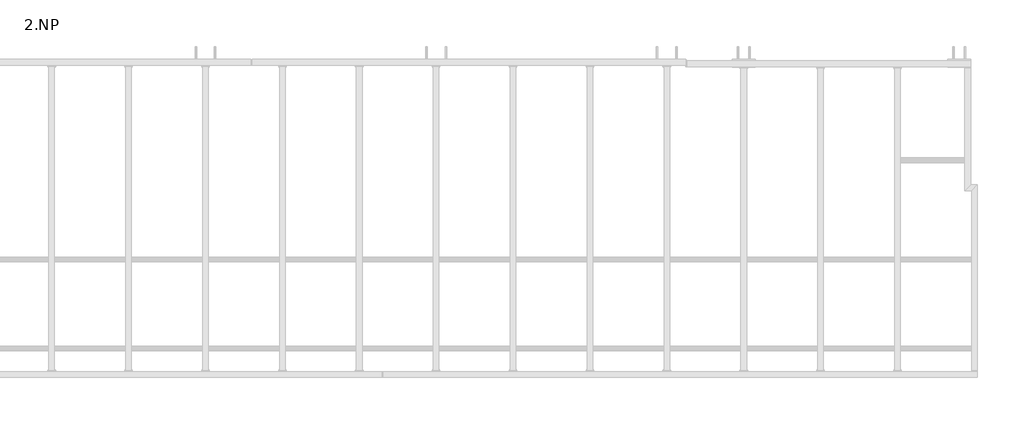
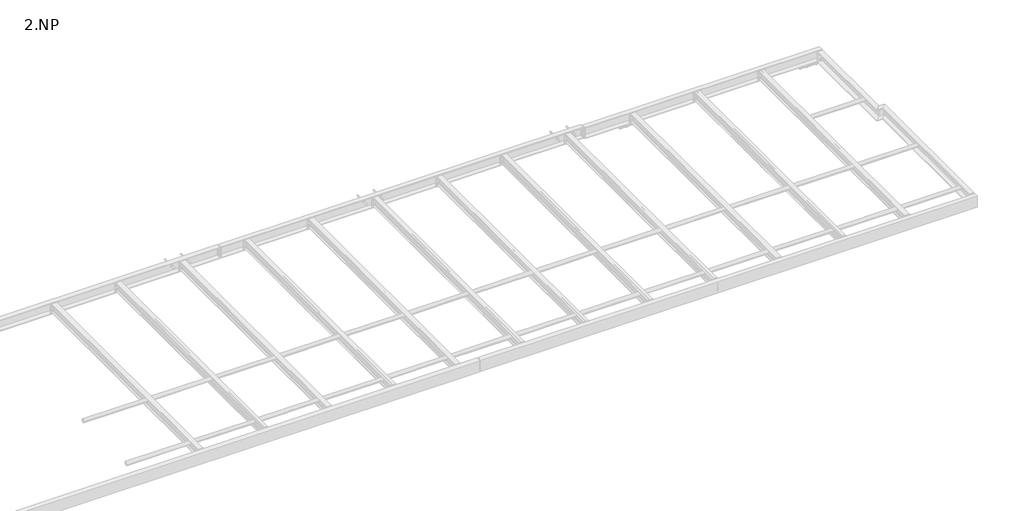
# One storey, part 17 of 18: 28 assemblies.
"""IFC4 building model written with IfcOpenShell, lengths in millimetres."""

from ifc_helpers import new_model, si_unit, point, frame, frame_2d, origin, place, context, project, spatial, polyline, circle_curve, trimmed, segment, composite_curve, outline, extrude, element, save

model = new_model("IFC4")

# Units and contexts
model_context = context("Model", 3, world=origin())
ifc_project = project(units=[si_unit("LENGTHUNIT", "METRE", prefix="MILLI")], contexts=[model_context])

# Site, building, storey
site = spatial("IfcSite", under=ifc_project)
building = spatial("IfcBuilding", under=site)
storey = spatial("IfcBuildingStorey", under=building, Name="2.NP", Elevation=3000.0)

# Assemblies
placement = place(None, origin())
element("IfcElementAssembly", 1, at=placement, inside=storey, context=model_context, shape_type="SweptSolid", body=[
    extrude(outline(composite_curve([segment(trimmed(circle_curve(frame_2d((1260.0, 3230.0)), 30.15), [point((1290.15, 3230.0))], [point((1229.85, 3230.0))], False, "CARTESIAN"), True, "CONTINUOUS"), segment(trimmed(circle_curve(frame_2d((1260.0, 3230.0)), 30.15), [point((1229.85, 3230.0))], [point((1290.15, 3230.0))], False, "CARTESIAN"), True, "CONTINUOUS")], self_intersect=False), holes=[composite_curve([segment(trimmed(circle_curve(frame_2d((1260.0, 3230.0)), 25.15), [point((1285.15, 3230.0))], [point((1234.85, 3230.0))], True, "CARTESIAN"), True, "CONTINUOUS"), segment(trimmed(circle_curve(frame_2d((1260.0, 3230.0)), 25.15), [point((1234.85, 3230.0))], [point((1285.15, 3230.0))], True, "CARTESIAN"), True, "CONTINUOUS")], self_intersect=False)]), frame((6052.35, 0.0, 0.0), z_axis=(1.0, 0.0, 0.0), x_axis=(0.0, 1.0, 0.0)), (0.0, 0.0, 1.0), 995.3),
])
element("IfcElementAssembly", 2, at=placement, inside=storey, context=model_context, shape_type="SweptSolid", body=[
    extrude(outline(composite_curve([segment(trimmed(circle_curve(frame_2d((1260.0, 3230.0)), 30.15), [point((1290.15, 3230.0))], [point((1229.85, 3230.0))], False, "CARTESIAN"), True, "CONTINUOUS"), segment(trimmed(circle_curve(frame_2d((1260.0, 3230.0)), 30.15), [point((1229.85, 3230.0))], [point((1290.15, 3230.0))], False, "CARTESIAN"), True, "CONTINUOUS")], self_intersect=False), holes=[composite_curve([segment(trimmed(circle_curve(frame_2d((1260.0, 3230.0)), 25.15), [point((1285.15, 3230.0))], [point((1234.85, 3230.0))], True, "CARTESIAN"), True, "CONTINUOUS"), segment(trimmed(circle_curve(frame_2d((1260.0, 3230.0)), 25.15), [point((1234.85, 3230.0))], [point((1285.15, 3230.0))], True, "CARTESIAN"), True, "CONTINUOUS")], self_intersect=False)]), frame((7052.35, 0.0, 0.0), z_axis=(1.0, 0.0, 0.0), x_axis=(0.0, 1.0, 0.0)), (0.0, 0.0, 1.0), 995.3),
])
element("IfcElementAssembly", 3, at=placement, inside=storey, context=model_context, shape_type="SweptSolid", body=[
    extrude(outline(composite_curve([segment(trimmed(circle_curve(frame_2d((1260.0, 3230.0)), 30.15), [point((1290.15, 3230.0))], [point((1229.85, 3230.0))], False, "CARTESIAN"), True, "CONTINUOUS"), segment(trimmed(circle_curve(frame_2d((1260.0, 3230.0)), 30.15), [point((1229.85, 3230.0))], [point((1290.15, 3230.0))], False, "CARTESIAN"), True, "CONTINUOUS")], self_intersect=False), holes=[composite_curve([segment(trimmed(circle_curve(frame_2d((1260.0, 3230.0)), 25.15), [point((1285.15, 3230.0))], [point((1234.85, 3230.0))], True, "CARTESIAN"), True, "CONTINUOUS"), segment(trimmed(circle_curve(frame_2d((1260.0, 3230.0)), 25.15), [point((1234.85, 3230.0))], [point((1285.15, 3230.0))], True, "CARTESIAN"), True, "CONTINUOUS")], self_intersect=False)]), frame((8052.35, 0.0, 0.0), z_axis=(1.0, 0.0, 0.0), x_axis=(0.0, 1.0, 0.0)), (0.0, 0.0, 1.0), 995.3),
])
element("IfcElementAssembly", 4, at=placement, inside=storey, context=model_context, shape_type="SweptSolid", body=[
    extrude(outline(composite_curve([segment(trimmed(circle_curve(frame_2d((1260.0, 3230.0)), 30.15), [point((1290.15, 3230.0))], [point((1229.85, 3230.0))], False, "CARTESIAN"), True, "CONTINUOUS"), segment(trimmed(circle_curve(frame_2d((1260.0, 3230.0)), 30.15), [point((1229.85, 3230.0))], [point((1290.15, 3230.0))], False, "CARTESIAN"), True, "CONTINUOUS")], self_intersect=False), holes=[composite_curve([segment(trimmed(circle_curve(frame_2d((1260.0, 3230.0)), 25.15), [point((1285.15, 3230.0))], [point((1234.85, 3230.0))], True, "CARTESIAN"), True, "CONTINUOUS"), segment(trimmed(circle_curve(frame_2d((1260.0, 3230.0)), 25.15), [point((1234.85, 3230.0))], [point((1285.15, 3230.0))], True, "CARTESIAN"), True, "CONTINUOUS")], self_intersect=False)]), frame((9052.35, 0.0, 0.0), z_axis=(1.0, 0.0, 0.0), x_axis=(0.0, 1.0, 0.0)), (0.0, 0.0, 1.0), 995.3),
])
element("IfcElementAssembly", 5, at=placement, inside=storey, context=model_context, shape_type="SweptSolid", body=[
    extrude(outline(composite_curve([segment(trimmed(circle_curve(frame_2d((1260.0, 3230.0)), 30.15), [point((1290.15, 3230.0))], [point((1229.85, 3230.0))], False, "CARTESIAN"), True, "CONTINUOUS"), segment(trimmed(circle_curve(frame_2d((1260.0, 3230.0)), 30.15), [point((1229.85, 3230.0))], [point((1290.15, 3230.0))], False, "CARTESIAN"), True, "CONTINUOUS")], self_intersect=False), holes=[composite_curve([segment(trimmed(circle_curve(frame_2d((1260.0, 3230.0)), 25.15), [point((1285.15, 3230.0))], [point((1234.85, 3230.0))], True, "CARTESIAN"), True, "CONTINUOUS"), segment(trimmed(circle_curve(frame_2d((1260.0, 3230.0)), 25.15), [point((1234.85, 3230.0))], [point((1285.15, 3230.0))], True, "CARTESIAN"), True, "CONTINUOUS")], self_intersect=False)]), frame((10052.35, 0.0, 0.0), z_axis=(1.0, 0.0, 0.0), x_axis=(0.0, 1.0, 0.0)), (0.0, 0.0, 1.0), 995.3),
])
element("IfcElementAssembly", 6, at=placement, inside=storey, context=model_context, shape_type="SweptSolid", body=[
    extrude(outline(composite_curve([segment(trimmed(circle_curve(frame_2d((1260.0, 3230.0)), 30.15), [point((1290.15, 3230.0))], [point((1229.85, 3230.0))], False, "CARTESIAN"), True, "CONTINUOUS"), segment(trimmed(circle_curve(frame_2d((1260.0, 3230.0)), 30.15), [point((1229.85, 3230.0))], [point((1290.15, 3230.0))], False, "CARTESIAN"), True, "CONTINUOUS")], self_intersect=False), holes=[composite_curve([segment(trimmed(circle_curve(frame_2d((1260.0, 3230.0)), 25.15), [point((1285.15, 3230.0))], [point((1234.85, 3230.0))], True, "CARTESIAN"), True, "CONTINUOUS"), segment(trimmed(circle_curve(frame_2d((1260.0, 3230.0)), 25.15), [point((1234.85, 3230.0))], [point((1285.15, 3230.0))], True, "CARTESIAN"), True, "CONTINUOUS")], self_intersect=False)]), frame((11052.35, 0.0, 0.0), z_axis=(1.0, 0.0, 0.0), x_axis=(0.0, 1.0, 0.0)), (0.0, 0.0, 1.0), 995.3),
])
element("IfcElementAssembly", 7, at=placement, inside=storey, context=model_context, shape_type="SweptSolid", body=[
    extrude(outline(composite_curve([segment(trimmed(circle_curve(frame_2d((1260.0, 3230.0)), 30.15), [point((1290.15, 3230.0))], [point((1229.85, 3230.0))], False, "CARTESIAN"), True, "CONTINUOUS"), segment(trimmed(circle_curve(frame_2d((1260.0, 3230.0)), 30.15), [point((1229.85, 3230.0))], [point((1290.15, 3230.0))], False, "CARTESIAN"), True, "CONTINUOUS")], self_intersect=False), holes=[composite_curve([segment(trimmed(circle_curve(frame_2d((1260.0, 3230.0)), 25.15), [point((1285.15, 3230.0))], [point((1234.85, 3230.0))], True, "CARTESIAN"), True, "CONTINUOUS"), segment(trimmed(circle_curve(frame_2d((1260.0, 3230.0)), 25.15), [point((1234.85, 3230.0))], [point((1285.15, 3230.0))], True, "CARTESIAN"), True, "CONTINUOUS")], self_intersect=False)]), frame((12052.35, 0.0, 0.0), z_axis=(1.0, 0.0, 0.0), x_axis=(0.0, 1.0, 0.0)), (0.0, 0.0, 1.0), 995.3),
])
element("IfcElementAssembly", 8, at=placement, inside=storey, context=model_context, shape_type="SweptSolid", body=[
    extrude(outline(composite_curve([segment(trimmed(circle_curve(frame_2d((1260.0, 3230.0)), 30.15), [point((1290.15, 3230.0))], [point((1229.85, 3230.0))], False, "CARTESIAN"), True, "CONTINUOUS"), segment(trimmed(circle_curve(frame_2d((1260.0, 3230.0)), 30.15), [point((1229.85, 3230.0))], [point((1290.15, 3230.0))], False, "CARTESIAN"), True, "CONTINUOUS")], self_intersect=False), holes=[composite_curve([segment(trimmed(circle_curve(frame_2d((1260.0, 3230.0)), 25.15), [point((1285.15, 3230.0))], [point((1234.85, 3230.0))], True, "CARTESIAN"), True, "CONTINUOUS"), segment(trimmed(circle_curve(frame_2d((1260.0, 3230.0)), 25.15), [point((1234.85, 3230.0))], [point((1285.15, 3230.0))], True, "CARTESIAN"), True, "CONTINUOUS")], self_intersect=False)]), frame((13052.35, 0.0, 0.0), z_axis=(1.0, 0.0, 0.0), x_axis=(0.0, 1.0, 0.0)), (0.0, 0.0, 1.0), 995.3),
])
element("IfcElementAssembly", 9, at=placement, inside=storey, context=model_context, shape_type="SweptSolid", body=[
    extrude(outline(composite_curve([segment(trimmed(circle_curve(frame_2d((1260.0, 3230.0)), 30.15), [point((1290.15, 3230.0))], [point((1229.85, 3230.0))], False, "CARTESIAN"), True, "CONTINUOUS"), segment(trimmed(circle_curve(frame_2d((1260.0, 3230.0)), 30.15), [point((1229.85, 3230.0))], [point((1290.15, 3230.0))], False, "CARTESIAN"), True, "CONTINUOUS")], self_intersect=False), holes=[composite_curve([segment(trimmed(circle_curve(frame_2d((1260.0, 3230.0)), 25.15), [point((1285.15, 3230.0))], [point((1234.85, 3230.0))], True, "CARTESIAN"), True, "CONTINUOUS"), segment(trimmed(circle_curve(frame_2d((1260.0, 3230.0)), 25.15), [point((1234.85, 3230.0))], [point((1285.15, 3230.0))], True, "CARTESIAN"), True, "CONTINUOUS")], self_intersect=False)]), frame((14052.4, 0.0, 0.0), z_axis=(1.0, 0.0, 0.0), x_axis=(0.0, 1.0, 0.0)), (0.0, 0.0, 1.0), 997.6),
])
element("IfcElementAssembly", 10, at=placement, inside=storey, context=model_context, shape_type="SweptSolid", body=[
    extrude(outline(composite_curve([segment(trimmed(circle_curve(frame_2d((100.0, 3230.0)), 30.15), [point((130.15, 3230.0))], [point((69.85, 3230.0))], False, "CARTESIAN"), True, "CONTINUOUS"), segment(trimmed(circle_curve(frame_2d((100.0, 3230.0)), 30.15), [point((69.85, 3230.0))], [point((130.15, 3230.0))], False, "CARTESIAN"), True, "CONTINUOUS")], self_intersect=False), holes=[composite_curve([segment(trimmed(circle_curve(frame_2d((100.0, 3230.0)), 25.15), [point((125.15, 3230.0))], [point((74.85, 3230.0))], True, "CARTESIAN"), True, "CONTINUOUS"), segment(trimmed(circle_curve(frame_2d((100.0, 3230.0)), 25.15), [point((74.85, 3230.0))], [point((125.15, 3230.0))], True, "CARTESIAN"), True, "CONTINUOUS")], self_intersect=False)]), frame((6052.35, 0.0, 0.0), z_axis=(1.0, 0.0, 0.0), x_axis=(0.0, 1.0, 0.0)), (0.0, 0.0, 1.0), 995.3),
])
element("IfcElementAssembly", 11, at=placement, inside=storey, context=model_context, shape_type="SweptSolid", body=[
    extrude(outline(composite_curve([segment(trimmed(circle_curve(frame_2d((100.0, 3230.0)), 30.15), [point((130.15, 3230.0))], [point((69.85, 3230.0))], False, "CARTESIAN"), True, "CONTINUOUS"), segment(trimmed(circle_curve(frame_2d((100.0, 3230.0)), 30.15), [point((69.85, 3230.0))], [point((130.15, 3230.0))], False, "CARTESIAN"), True, "CONTINUOUS")], self_intersect=False), holes=[composite_curve([segment(trimmed(circle_curve(frame_2d((100.0, 3230.0)), 25.15), [point((125.15, 3230.0))], [point((74.85, 3230.0))], True, "CARTESIAN"), True, "CONTINUOUS"), segment(trimmed(circle_curve(frame_2d((100.0, 3230.0)), 25.15), [point((74.85, 3230.0))], [point((125.15, 3230.0))], True, "CARTESIAN"), True, "CONTINUOUS")], self_intersect=False)]), frame((7052.35, 0.0, 0.0), z_axis=(1.0, 0.0, 0.0), x_axis=(0.0, 1.0, 0.0)), (0.0, 0.0, 1.0), 995.3),
])
element("IfcElementAssembly", 12, at=placement, inside=storey, context=model_context, shape_type="SweptSolid", body=[
    extrude(outline(composite_curve([segment(trimmed(circle_curve(frame_2d((100.0, 3230.0)), 30.15), [point((130.15, 3230.0))], [point((69.85, 3230.0))], False, "CARTESIAN"), True, "CONTINUOUS"), segment(trimmed(circle_curve(frame_2d((100.0, 3230.0)), 30.15), [point((69.85, 3230.0))], [point((130.15, 3230.0))], False, "CARTESIAN"), True, "CONTINUOUS")], self_intersect=False), holes=[composite_curve([segment(trimmed(circle_curve(frame_2d((100.0, 3230.0)), 25.15), [point((125.15, 3230.0))], [point((74.85, 3230.0))], True, "CARTESIAN"), True, "CONTINUOUS"), segment(trimmed(circle_curve(frame_2d((100.0, 3230.0)), 25.15), [point((74.85, 3230.0))], [point((125.15, 3230.0))], True, "CARTESIAN"), True, "CONTINUOUS")], self_intersect=False)]), frame((8052.35, 0.0, 0.0), z_axis=(1.0, 0.0, 0.0), x_axis=(0.0, 1.0, 0.0)), (0.0, 0.0, 1.0), 995.3),
])
element("IfcElementAssembly", 13, at=placement, inside=storey, context=model_context, shape_type="SweptSolid", body=[
    extrude(outline(composite_curve([segment(trimmed(circle_curve(frame_2d((100.0, 3230.0)), 30.15), [point((130.15, 3230.0))], [point((69.85, 3230.0))], False, "CARTESIAN"), True, "CONTINUOUS"), segment(trimmed(circle_curve(frame_2d((100.0, 3230.0)), 30.15), [point((69.85, 3230.0))], [point((130.15, 3230.0))], False, "CARTESIAN"), True, "CONTINUOUS")], self_intersect=False), holes=[composite_curve([segment(trimmed(circle_curve(frame_2d((100.0, 3230.0)), 25.15), [point((125.15, 3230.0))], [point((74.85, 3230.0))], True, "CARTESIAN"), True, "CONTINUOUS"), segment(trimmed(circle_curve(frame_2d((100.0, 3230.0)), 25.15), [point((74.85, 3230.0))], [point((125.15, 3230.0))], True, "CARTESIAN"), True, "CONTINUOUS")], self_intersect=False)]), frame((9052.35, 0.0, 0.0), z_axis=(1.0, 0.0, 0.0), x_axis=(0.0, 1.0, 0.0)), (0.0, 0.0, 1.0), 995.3),
])
element("IfcElementAssembly", 14, at=placement, inside=storey, context=model_context, shape_type="SweptSolid", body=[
    extrude(outline(composite_curve([segment(trimmed(circle_curve(frame_2d((100.0, 3230.0)), 30.15), [point((130.15, 3230.0))], [point((69.85, 3230.0))], False, "CARTESIAN"), True, "CONTINUOUS"), segment(trimmed(circle_curve(frame_2d((100.0, 3230.0)), 30.15), [point((69.85, 3230.0))], [point((130.15, 3230.0))], False, "CARTESIAN"), True, "CONTINUOUS")], self_intersect=False), holes=[composite_curve([segment(trimmed(circle_curve(frame_2d((100.0, 3230.0)), 25.15), [point((125.15, 3230.0))], [point((74.85, 3230.0))], True, "CARTESIAN"), True, "CONTINUOUS"), segment(trimmed(circle_curve(frame_2d((100.0, 3230.0)), 25.15), [point((74.85, 3230.0))], [point((125.15, 3230.0))], True, "CARTESIAN"), True, "CONTINUOUS")], self_intersect=False)]), frame((10052.35, 0.0, 0.0), z_axis=(1.0, 0.0, 0.0), x_axis=(0.0, 1.0, 0.0)), (0.0, 0.0, 1.0), 995.3),
])
element("IfcElementAssembly", 15, at=placement, inside=storey, context=model_context, shape_type="SweptSolid", body=[
    extrude(outline(composite_curve([segment(trimmed(circle_curve(frame_2d((100.0, 3230.0)), 30.15), [point((130.15, 3230.0))], [point((69.85, 3230.0))], False, "CARTESIAN"), True, "CONTINUOUS"), segment(trimmed(circle_curve(frame_2d((100.0, 3230.0)), 30.15), [point((69.85, 3230.0))], [point((130.15, 3230.0))], False, "CARTESIAN"), True, "CONTINUOUS")], self_intersect=False), holes=[composite_curve([segment(trimmed(circle_curve(frame_2d((100.0, 3230.0)), 25.15), [point((125.15, 3230.0))], [point((74.85, 3230.0))], True, "CARTESIAN"), True, "CONTINUOUS"), segment(trimmed(circle_curve(frame_2d((100.0, 3230.0)), 25.15), [point((74.85, 3230.0))], [point((125.15, 3230.0))], True, "CARTESIAN"), True, "CONTINUOUS")], self_intersect=False)]), frame((11052.35, 0.0, 0.0), z_axis=(1.0, 0.0, 0.0), x_axis=(0.0, 1.0, 0.0)), (0.0, 0.0, 1.0), 995.3),
])
element("IfcElementAssembly", 16, at=placement, inside=storey, context=model_context, shape_type="SweptSolid", body=[
    extrude(outline(composite_curve([segment(trimmed(circle_curve(frame_2d((100.0, 3230.0)), 30.15), [point((130.15, 3230.0))], [point((69.85, 3230.0))], False, "CARTESIAN"), True, "CONTINUOUS"), segment(trimmed(circle_curve(frame_2d((100.0, 3230.0)), 30.15), [point((69.85, 3230.0))], [point((130.15, 3230.0))], False, "CARTESIAN"), True, "CONTINUOUS")], self_intersect=False), holes=[composite_curve([segment(trimmed(circle_curve(frame_2d((100.0, 3230.0)), 25.15), [point((125.15, 3230.0))], [point((74.85, 3230.0))], True, "CARTESIAN"), True, "CONTINUOUS"), segment(trimmed(circle_curve(frame_2d((100.0, 3230.0)), 25.15), [point((74.85, 3230.0))], [point((125.15, 3230.0))], True, "CARTESIAN"), True, "CONTINUOUS")], self_intersect=False)]), frame((12052.35, 0.0, 0.0), z_axis=(1.0, 0.0, 0.0), x_axis=(0.0, 1.0, 0.0)), (0.0, 0.0, 1.0), 995.3),
])
element("IfcElementAssembly", 17, at=placement, inside=storey, context=model_context, shape_type="SweptSolid", body=[
    extrude(outline(composite_curve([segment(trimmed(circle_curve(frame_2d((100.0, 3230.0)), 30.15), [point((130.15, 3230.0))], [point((69.85, 3230.0))], False, "CARTESIAN"), True, "CONTINUOUS"), segment(trimmed(circle_curve(frame_2d((100.0, 3230.0)), 30.15), [point((69.85, 3230.0))], [point((130.15, 3230.0))], False, "CARTESIAN"), True, "CONTINUOUS")], self_intersect=False), holes=[composite_curve([segment(trimmed(circle_curve(frame_2d((100.0, 3230.0)), 25.15), [point((125.15, 3230.0))], [point((74.85, 3230.0))], True, "CARTESIAN"), True, "CONTINUOUS"), segment(trimmed(circle_curve(frame_2d((100.0, 3230.0)), 25.15), [point((74.85, 3230.0))], [point((125.15, 3230.0))], True, "CARTESIAN"), True, "CONTINUOUS")], self_intersect=False)]), frame((13052.35, 0.0, 0.0), z_axis=(1.0, 0.0, 0.0), x_axis=(0.0, 1.0, 0.0)), (0.0, 0.0, 1.0), 995.3),
])
element("IfcElementAssembly", 18, at=placement, inside=storey, context=model_context, shape_type="SweptSolid", body=[
    extrude(outline(composite_curve([segment(trimmed(circle_curve(frame_2d((100.0, 3230.0)), 30.15), [point((130.15, 3230.0))], [point((69.85, 3230.0))], False, "CARTESIAN"), True, "CONTINUOUS"), segment(trimmed(circle_curve(frame_2d((100.0, 3230.0)), 30.15), [point((69.85, 3230.0))], [point((130.15, 3230.0))], False, "CARTESIAN"), True, "CONTINUOUS")], self_intersect=False), holes=[composite_curve([segment(trimmed(circle_curve(frame_2d((100.0, 3230.0)), 25.15), [point((125.15, 3230.0))], [point((74.85, 3230.0))], True, "CARTESIAN"), True, "CONTINUOUS"), segment(trimmed(circle_curve(frame_2d((100.0, 3230.0)), 25.15), [point((74.85, 3230.0))], [point((125.15, 3230.0))], True, "CARTESIAN"), True, "CONTINUOUS")], self_intersect=False)]), frame((14052.35, 0.0, 0.0), z_axis=(1.0, 0.0, 0.0), x_axis=(0.0, 1.0, 0.0)), (0.0, 0.0, 1.0), 995.3),
])
element("IfcElementAssembly", 19, at=placement, inside=storey, context=model_context, shape_type="SweptSolid", body=[
    extrude(outline(composite_curve([segment(trimmed(circle_curve(frame_2d((100.0, 3230.0)), 30.15), [point((130.15, 3230.0))], [point((69.85, 3230.0))], False, "CARTESIAN"), True, "CONTINUOUS"), segment(trimmed(circle_curve(frame_2d((100.0, 3230.0)), 30.15), [point((69.85, 3230.0))], [point((130.15, 3230.0))], False, "CARTESIAN"), True, "CONTINUOUS")], self_intersect=False), holes=[composite_curve([segment(trimmed(circle_curve(frame_2d((100.0, 3230.0)), 25.15), [point((125.15, 3230.0))], [point((74.85, 3230.0))], True, "CARTESIAN"), True, "CONTINUOUS"), segment(trimmed(circle_curve(frame_2d((100.0, 3230.0)), 25.15), [point((74.85, 3230.0))], [point((125.15, 3230.0))], True, "CARTESIAN"), True, "CONTINUOUS")], self_intersect=False)]), frame((15052.4, 0.0, 0.0), z_axis=(1.0, 0.0, 0.0), x_axis=(0.0, 1.0, 0.0)), (0.0, 0.0, 1.0), 1032.1),
])
element("IfcElementAssembly", 20, at=placement, inside=storey, context=model_context, shape_type="SweptSolid", body=[
    extrude(outline(composite_curve([segment(polyline([(3160.0, 6013.5), (3160.0, 6086.5), (3166.9000001, 6086.5), (3166.9000001, 6059.3499999)]), True, "CONTINUOUS"), segment(trimmed(circle_curve(frame_2d((3173.9000001, 6059.3499999)), 7.0), [point((3166.9000001, 6059.3499999))], [point((3173.9000001, 6052.3499999))], True, "CARTESIAN"), True, "CONTINUOUS"), segment(polyline([(3173.9000001, 6052.3499999), (3286.0999999, 6052.3499999)]), True, "CONTINUOUS"), segment(trimmed(circle_curve(frame_2d((3286.0999999, 6059.3499999)), 7.0), [point((3286.0999999, 6052.3499999))], [point((3293.0999999, 6059.3499999))], True, "CARTESIAN"), True, "CONTINUOUS"), segment(polyline([(3293.0999999, 6059.3499999), (3293.0999999, 6086.5), (3300.0, 6086.5), (3300.0, 6013.5), (3293.0999999, 6013.5), (3293.0999999, 6040.6500001)]), True, "CONTINUOUS"), segment(trimmed(circle_curve(frame_2d((3286.0999999, 6040.6500001)), 7.0), [point((3293.0999999, 6040.6500001))], [point((3286.0999999, 6047.6500001))], True, "CARTESIAN"), True, "CONTINUOUS"), segment(polyline([(3286.0999999, 6047.6500001), (3173.9000001, 6047.6500001)]), True, "CONTINUOUS"), segment(trimmed(circle_curve(frame_2d((3173.9000001, 6040.6500001)), 7.0), [point((3173.9000001, 6047.6500001))], [point((3166.9000001, 6040.6500001))], True, "CARTESIAN"), True, "CONTINUOUS"), segment(polyline([(3166.9000001, 6040.6500001), (3166.9000001, 6013.5), (3160.0, 6013.5)]), True, "CONTINUOUS")], self_intersect=False)), frame((0.0, -180.0, 0.0), z_axis=(0.0, 1.0, 0.0), x_axis=(0.0, 0.0, 1.0)), (0.0, 0.0, 1.0), 3947.0),
    extrude(outline(polyline([(6000.0, 3775.0), (6100.0, 3775.0), (6100.0, 3767.0), (6000.0, 3767.0), (6000.0, 3775.0)])), frame((0.0, 0.0, 3175.0), z_axis=(0.0, 0.0, 1.0), x_axis=(1.0, 0.0, 0.0)), (0.0, 0.0, 1.0), 110.0),
    extrude(outline(polyline([(6000.0, -180.0), (6100.0, -180.0), (6100.0, -190.0), (6000.0, -190.0), (6000.0, -180.0)])), frame((0.0, 0.0, 3166.5), z_axis=(0.0, 0.0, 1.0), x_axis=(1.0, 0.0, 0.0)), (0.0, 0.0, 1.0), 127.0),
])
element("IfcElementAssembly", 21, at=placement, inside=storey, context=model_context, shape_type="SweptSolid", body=[
    extrude(outline(composite_curve([segment(polyline([(3160.0, 7013.5), (3160.0, 7086.5), (3166.9000001, 7086.5), (3166.9000001, 7059.3499999)]), True, "CONTINUOUS"), segment(trimmed(circle_curve(frame_2d((3173.9000001, 7059.3499999)), 7.0), [point((3166.9000001, 7059.3499999))], [point((3173.9000001, 7052.3499999))], True, "CARTESIAN"), True, "CONTINUOUS"), segment(polyline([(3173.9000001, 7052.3499999), (3286.0999999, 7052.3499999)]), True, "CONTINUOUS"), segment(trimmed(circle_curve(frame_2d((3286.0999999, 7059.3499999)), 7.0), [point((3286.0999999, 7052.3499999))], [point((3293.0999999, 7059.3499999))], True, "CARTESIAN"), True, "CONTINUOUS"), segment(polyline([(3293.0999999, 7059.3499999), (3293.0999999, 7086.5), (3300.0, 7086.5), (3300.0, 7013.5), (3293.0999999, 7013.5), (3293.0999999, 7040.6500001)]), True, "CONTINUOUS"), segment(trimmed(circle_curve(frame_2d((3286.0999999, 7040.6500001)), 7.0), [point((3293.0999999, 7040.6500001))], [point((3286.0999999, 7047.6500001))], True, "CARTESIAN"), True, "CONTINUOUS"), segment(polyline([(3286.0999999, 7047.6500001), (3173.9000001, 7047.6500001)]), True, "CONTINUOUS"), segment(trimmed(circle_curve(frame_2d((3173.9000001, 7040.6500001)), 7.0), [point((3173.9000001, 7047.6500001))], [point((3166.9000001, 7040.6500001))], True, "CARTESIAN"), True, "CONTINUOUS"), segment(polyline([(3166.9000001, 7040.6500001), (3166.9000001, 7013.5), (3160.0, 7013.5)]), True, "CONTINUOUS")], self_intersect=False)), frame((0.0, -180.0, 0.0), z_axis=(0.0, 1.0, 0.0), x_axis=(0.0, 0.0, 1.0)), (0.0, 0.0, 1.0), 3947.0),
    extrude(outline(polyline([(7000.0, 3775.0), (7100.0, 3775.0), (7100.0, 3767.0), (7000.0, 3767.0), (7000.0, 3775.0)])), frame((0.0, 0.0, 3175.0), z_axis=(0.0, 0.0, 1.0), x_axis=(1.0, 0.0, 0.0)), (0.0, 0.0, 1.0), 110.0),
    extrude(outline(polyline([(7000.0, -180.0), (7100.0, -180.0), (7100.0, -190.0), (7000.0, -190.0), (7000.0, -180.0)])), frame((0.0, 0.0, 3166.5), z_axis=(0.0, 0.0, 1.0), x_axis=(1.0, 0.0, 0.0)), (0.0, 0.0, 1.0), 127.0),
])
element("IfcElementAssembly", 22, at=placement, inside=storey, context=model_context, shape_type="SweptSolid", body=[
    extrude(outline(composite_curve([segment(polyline([(3160.0, 8013.5), (3160.0, 8086.5), (3166.9000001, 8086.5), (3166.9000001, 8059.3499999)]), True, "CONTINUOUS"), segment(trimmed(circle_curve(frame_2d((3173.9000001, 8059.3499999)), 7.0), [point((3166.9000001, 8059.3499999))], [point((3173.9000001, 8052.3499999))], True, "CARTESIAN"), True, "CONTINUOUS"), segment(polyline([(3173.9000001, 8052.3499999), (3286.0999999, 8052.3499999)]), True, "CONTINUOUS"), segment(trimmed(circle_curve(frame_2d((3286.0999999, 8059.3499999)), 7.0), [point((3286.0999999, 8052.3499999))], [point((3293.0999999, 8059.3499999))], True, "CARTESIAN"), True, "CONTINUOUS"), segment(polyline([(3293.0999999, 8059.3499999), (3293.0999999, 8086.5), (3300.0, 8086.5), (3300.0, 8013.5), (3293.0999999, 8013.5), (3293.0999999, 8040.6500001)]), True, "CONTINUOUS"), segment(trimmed(circle_curve(frame_2d((3286.0999999, 8040.6500001)), 7.0), [point((3293.0999999, 8040.6500001))], [point((3286.0999999, 8047.6500001))], True, "CARTESIAN"), True, "CONTINUOUS"), segment(polyline([(3286.0999999, 8047.6500001), (3173.9000001, 8047.6500001)]), True, "CONTINUOUS"), segment(trimmed(circle_curve(frame_2d((3173.9000001, 8040.6500001)), 7.0), [point((3173.9000001, 8047.6500001))], [point((3166.9000001, 8040.6500001))], True, "CARTESIAN"), True, "CONTINUOUS"), segment(polyline([(3166.9000001, 8040.6500001), (3166.9000001, 8013.5), (3160.0, 8013.5)]), True, "CONTINUOUS")], self_intersect=False)), frame((0.0, -180.0, 0.0), z_axis=(0.0, 1.0, 0.0), x_axis=(0.0, 0.0, 1.0)), (0.0, 0.0, 1.0), 3947.0),
    extrude(outline(polyline([(8000.0, 3775.0), (8100.0, 3775.0), (8100.0, 3767.0), (8000.0, 3767.0), (8000.0, 3775.0)])), frame((0.0, 0.0, 3175.0), z_axis=(0.0, 0.0, 1.0), x_axis=(1.0, 0.0, 0.0)), (0.0, 0.0, 1.0), 110.0),
    extrude(outline(polyline([(8000.0, -180.0), (8100.0, -180.0), (8100.0, -190.0), (8000.0, -190.0), (8000.0, -180.0)])), frame((0.0, 0.0, 3166.5), z_axis=(0.0, 0.0, 1.0), x_axis=(1.0, 0.0, 0.0)), (0.0, 0.0, 1.0), 127.0),
])
element("IfcElementAssembly", 23, at=placement, inside=storey, context=model_context, shape_type="SweptSolid", body=[
    extrude(outline(composite_curve([segment(polyline([(3160.0, 9013.5), (3160.0, 9086.5), (3166.9000001, 9086.5), (3166.9000001, 9059.3499999)]), True, "CONTINUOUS"), segment(trimmed(circle_curve(frame_2d((3173.9000001, 9059.3499999)), 7.0), [point((3166.9000001, 9059.3499999))], [point((3173.9000001, 9052.3499999))], True, "CARTESIAN"), True, "CONTINUOUS"), segment(polyline([(3173.9000001, 9052.3499999), (3286.0999999, 9052.3499999)]), True, "CONTINUOUS"), segment(trimmed(circle_curve(frame_2d((3286.0999999, 9059.3499999)), 7.0), [point((3286.0999999, 9052.3499999))], [point((3293.0999999, 9059.3499999))], True, "CARTESIAN"), True, "CONTINUOUS"), segment(polyline([(3293.0999999, 9059.3499999), (3293.0999999, 9086.5), (3300.0, 9086.5), (3300.0, 9013.5), (3293.0999999, 9013.5), (3293.0999999, 9040.6500001)]), True, "CONTINUOUS"), segment(trimmed(circle_curve(frame_2d((3286.0999999, 9040.6500001)), 7.0), [point((3293.0999999, 9040.6500001))], [point((3286.0999999, 9047.6500001))], True, "CARTESIAN"), True, "CONTINUOUS"), segment(polyline([(3286.0999999, 9047.6500001), (3173.9000001, 9047.6500001)]), True, "CONTINUOUS"), segment(trimmed(circle_curve(frame_2d((3173.9000001, 9040.6500001)), 7.0), [point((3173.9000001, 9047.6500001))], [point((3166.9000001, 9040.6500001))], True, "CARTESIAN"), True, "CONTINUOUS"), segment(polyline([(3166.9000001, 9040.6500001), (3166.9000001, 9013.5), (3160.0, 9013.5)]), True, "CONTINUOUS")], self_intersect=False)), frame((0.0, -180.0, 0.0), z_axis=(0.0, 1.0, 0.0), x_axis=(0.0, 0.0, 1.0)), (0.0, 0.0, 1.0), 3947.0),
    extrude(outline(polyline([(9000.0, 3775.0), (9100.0, 3775.0), (9100.0, 3767.0), (9000.0, 3767.0), (9000.0, 3775.0)])), frame((0.0, 0.0, 3175.0), z_axis=(0.0, 0.0, 1.0), x_axis=(1.0, 0.0, 0.0)), (0.0, 0.0, 1.0), 110.0),
    extrude(outline(polyline([(9000.0, -180.0), (9100.0, -180.0), (9100.0, -190.0), (9000.0, -190.0), (9000.0, -180.0)])), frame((0.0, 0.0, 3166.5), z_axis=(0.0, 0.0, 1.0), x_axis=(1.0, 0.0, 0.0)), (0.0, 0.0, 1.0), 127.0),
])
element("IfcElementAssembly", 24, at=placement, inside=storey, context=model_context, shape_type="SweptSolid", body=[
    extrude(outline(composite_curve([segment(polyline([(3160.0, 10013.5), (3160.0, 10086.5), (3166.9000001, 10086.5), (3166.9000001, 10059.3499999)]), True, "CONTINUOUS"), segment(trimmed(circle_curve(frame_2d((3173.9000001, 10059.3499999)), 7.0), [point((3166.9000001, 10059.3499999))], [point((3173.9000001, 10052.3499999))], True, "CARTESIAN"), True, "CONTINUOUS"), segment(polyline([(3173.9000001, 10052.3499999), (3286.0999999, 10052.3499999)]), True, "CONTINUOUS"), segment(trimmed(circle_curve(frame_2d((3286.0999999, 10059.3499999)), 7.0), [point((3286.0999999, 10052.3499999))], [point((3293.0999999, 10059.3499999))], True, "CARTESIAN"), True, "CONTINUOUS"), segment(polyline([(3293.0999999, 10059.3499999), (3293.0999999, 10086.5), (3300.0, 10086.5), (3300.0, 10013.5), (3293.0999999, 10013.5), (3293.0999999, 10040.6500001)]), True, "CONTINUOUS"), segment(trimmed(circle_curve(frame_2d((3286.0999999, 10040.6500001)), 7.0), [point((3293.0999999, 10040.6500001))], [point((3286.0999999, 10047.6500001))], True, "CARTESIAN"), True, "CONTINUOUS"), segment(polyline([(3286.0999999, 10047.6500001), (3173.9000001, 10047.6500001)]), True, "CONTINUOUS"), segment(trimmed(circle_curve(frame_2d((3173.9000001, 10040.6500001)), 7.0), [point((3173.9000001, 10047.6500001))], [point((3166.9000001, 10040.6500001))], True, "CARTESIAN"), True, "CONTINUOUS"), segment(polyline([(3166.9000001, 10040.6500001), (3166.9000001, 10013.5), (3160.0, 10013.5)]), True, "CONTINUOUS")], self_intersect=False)), frame((0.0, -180.0, 0.0), z_axis=(0.0, 1.0, 0.0), x_axis=(0.0, 0.0, 1.0)), (0.0, 0.0, 1.0), 3947.0),
    extrude(outline(polyline([(10000.0, 3775.0), (10100.0, 3775.0), (10100.0, 3767.0), (10000.0, 3767.0), (10000.0, 3775.0)])), frame((0.0, 0.0, 3175.0), z_axis=(0.0, 0.0, 1.0), x_axis=(1.0, 0.0, 0.0)), (0.0, 0.0, 1.0), 110.0),
    extrude(outline(polyline([(10000.0, -180.0), (10100.0, -180.0), (10100.0, -190.0), (10000.0, -190.0), (10000.0, -180.0)])), frame((0.0, 0.0, 3166.5), z_axis=(0.0, 0.0, 1.0), x_axis=(1.0, 0.0, 0.0)), (0.0, 0.0, 1.0), 127.0),
])
element("IfcElementAssembly", 25, at=placement, inside=storey, context=model_context, shape_type="SweptSolid", body=[
    extrude(outline(composite_curve([segment(polyline([(3160.0, 11013.5), (3160.0, 11086.5), (3166.9000001, 11086.5), (3166.9000001, 11059.3499999)]), True, "CONTINUOUS"), segment(trimmed(circle_curve(frame_2d((3173.9000001, 11059.3499999)), 7.0), [point((3166.9000001, 11059.3499999))], [point((3173.9000001, 11052.3499999))], True, "CARTESIAN"), True, "CONTINUOUS"), segment(polyline([(3173.9000001, 11052.3499999), (3286.0999999, 11052.3499999)]), True, "CONTINUOUS"), segment(trimmed(circle_curve(frame_2d((3286.0999999, 11059.3499999)), 7.0), [point((3286.0999999, 11052.3499999))], [point((3293.0999999, 11059.3499999))], True, "CARTESIAN"), True, "CONTINUOUS"), segment(polyline([(3293.0999999, 11059.3499999), (3293.0999999, 11086.5), (3300.0, 11086.5), (3300.0, 11013.5), (3293.0999999, 11013.5), (3293.0999999, 11040.6500001)]), True, "CONTINUOUS"), segment(trimmed(circle_curve(frame_2d((3286.0999999, 11040.6500001)), 7.0), [point((3293.0999999, 11040.6500001))], [point((3286.0999999, 11047.6500001))], True, "CARTESIAN"), True, "CONTINUOUS"), segment(polyline([(3286.0999999, 11047.6500001), (3173.9000001, 11047.6500001)]), True, "CONTINUOUS"), segment(trimmed(circle_curve(frame_2d((3173.9000001, 11040.6500001)), 7.0), [point((3173.9000001, 11047.6500001))], [point((3166.9000001, 11040.6500001))], True, "CARTESIAN"), True, "CONTINUOUS"), segment(polyline([(3166.9000001, 11040.6500001), (3166.9000001, 11013.5), (3160.0, 11013.5)]), True, "CONTINUOUS")], self_intersect=False)), frame((0.0, -180.0, 0.0), z_axis=(0.0, 1.0, 0.0), x_axis=(0.0, 0.0, 1.0)), (0.0, 0.0, 1.0), 3947.0),
    extrude(outline(polyline([(11000.0, 3775.0), (11100.0, 3775.0), (11100.0, 3767.0), (11000.0, 3767.0), (11000.0, 3775.0)])), frame((0.0, 0.0, 3175.0), z_axis=(0.0, 0.0, 1.0), x_axis=(1.0, 0.0, 0.0)), (0.0, 0.0, 1.0), 110.0),
    extrude(outline(polyline([(11000.0, -180.0), (11100.0, -180.0), (11100.0, -190.0), (11000.0, -190.0), (11000.0, -180.0)])), frame((0.0, 0.0, 3166.5), z_axis=(0.0, 0.0, 1.0), x_axis=(1.0, 0.0, 0.0)), (0.0, 0.0, 1.0), 127.0),
])
element("IfcElementAssembly", 26, at=placement, inside=storey, context=model_context, shape_type="SweptSolid", body=[
    extrude(outline(composite_curve([segment(polyline([(3160.0, 12013.5), (3160.0, 12086.5), (3166.9000001, 12086.5), (3166.9000001, 12059.3499999)]), True, "CONTINUOUS"), segment(trimmed(circle_curve(frame_2d((3173.9000001, 12059.3499999)), 7.0), [point((3166.9000001, 12059.3499999))], [point((3173.9000001, 12052.3499999))], True, "CARTESIAN"), True, "CONTINUOUS"), segment(polyline([(3173.9000001, 12052.3499999), (3286.0999999, 12052.3499999)]), True, "CONTINUOUS"), segment(trimmed(circle_curve(frame_2d((3286.0999999, 12059.3499999)), 7.0), [point((3286.0999999, 12052.3499999))], [point((3293.0999999, 12059.3499999))], True, "CARTESIAN"), True, "CONTINUOUS"), segment(polyline([(3293.0999999, 12059.3499999), (3293.0999999, 12086.5), (3300.0, 12086.5), (3300.0, 12013.5), (3293.0999999, 12013.5), (3293.0999999, 12040.6500001)]), True, "CONTINUOUS"), segment(trimmed(circle_curve(frame_2d((3286.0999999, 12040.6500001)), 7.0), [point((3293.0999999, 12040.6500001))], [point((3286.0999999, 12047.6500001))], True, "CARTESIAN"), True, "CONTINUOUS"), segment(polyline([(3286.0999999, 12047.6500001), (3173.9000001, 12047.6500001)]), True, "CONTINUOUS"), segment(trimmed(circle_curve(frame_2d((3173.9000001, 12040.6500001)), 7.0), [point((3173.9000001, 12047.6500001))], [point((3166.9000001, 12040.6500001))], True, "CARTESIAN"), True, "CONTINUOUS"), segment(polyline([(3166.9000001, 12040.6500001), (3166.9000001, 12013.5), (3160.0, 12013.5)]), True, "CONTINUOUS")], self_intersect=False)), frame((0.0, -180.0, 0.0), z_axis=(0.0, 1.0, 0.0), x_axis=(0.0, 0.0, 1.0)), (0.0, 0.0, 1.0), 3947.0),
    extrude(outline(polyline([(12000.0, 3775.0), (12100.0, 3775.0), (12100.0, 3767.0), (12000.0, 3767.0), (12000.0, 3775.0)])), frame((0.0, 0.0, 3175.0), z_axis=(0.0, 0.0, 1.0), x_axis=(1.0, 0.0, 0.0)), (0.0, 0.0, 1.0), 110.0),
    extrude(outline(polyline([(12000.0, -180.0), (12100.0, -180.0), (12100.0, -190.0), (12000.0, -190.0), (12000.0, -180.0)])), frame((0.0, 0.0, 3166.5), z_axis=(0.0, 0.0, 1.0), x_axis=(1.0, 0.0, 0.0)), (0.0, 0.0, 1.0), 127.0),
])
element("IfcElementAssembly", 27, at=placement, inside=storey, context=model_context, shape_type="SweptSolid", body=[
    extrude(outline(composite_curve([segment(polyline([(3160.0, 13013.5), (3160.0, 13086.5), (3166.9000001, 13086.5), (3166.9000001, 13059.3499999)]), True, "CONTINUOUS"), segment(trimmed(circle_curve(frame_2d((3173.9000001, 13059.3499999)), 7.0), [point((3166.9000001, 13059.3499999))], [point((3173.9000001, 13052.3499999))], True, "CARTESIAN"), True, "CONTINUOUS"), segment(polyline([(3173.9000001, 13052.3499999), (3286.0999999, 13052.3499999)]), True, "CONTINUOUS"), segment(trimmed(circle_curve(frame_2d((3286.0999999, 13059.3499999)), 7.0), [point((3286.0999999, 13052.3499999))], [point((3293.0999999, 13059.3499999))], True, "CARTESIAN"), True, "CONTINUOUS"), segment(polyline([(3293.0999999, 13059.3499999), (3293.0999999, 13086.5), (3300.0, 13086.5), (3300.0, 13013.5), (3293.0999999, 13013.5), (3293.0999999, 13040.6500001)]), True, "CONTINUOUS"), segment(trimmed(circle_curve(frame_2d((3286.0999999, 13040.6500001)), 7.0), [point((3293.0999999, 13040.6500001))], [point((3286.0999999, 13047.6500001))], True, "CARTESIAN"), True, "CONTINUOUS"), segment(polyline([(3286.0999999, 13047.6500001), (3173.9000001, 13047.6500001)]), True, "CONTINUOUS"), segment(trimmed(circle_curve(frame_2d((3173.9000001, 13040.6500001)), 7.0), [point((3173.9000001, 13047.6500001))], [point((3166.9000001, 13040.6500001))], True, "CARTESIAN"), True, "CONTINUOUS"), segment(polyline([(3166.9000001, 13040.6500001), (3166.9000001, 13013.5), (3160.0, 13013.5)]), True, "CONTINUOUS")], self_intersect=False)), frame((0.0, -180.0, 0.0), z_axis=(0.0, 1.0, 0.0), x_axis=(0.0, 0.0, 1.0)), (0.0, 0.0, 1.0), 3927.0),
    extrude(outline(polyline([(13000.0, 3755.0), (13100.0, 3755.0), (13100.0, 3747.0), (13000.0, 3747.0), (13000.0, 3755.0)])), frame((0.0, 0.0, 3175.0), z_axis=(0.0, 0.0, 1.0), x_axis=(1.0, 0.0, 0.0)), (0.0, 0.0, 1.0), 110.0),
    extrude(outline(polyline([(13000.0, -180.0), (13100.0, -180.0), (13100.0, -190.0), (13000.0, -190.0), (13000.0, -180.0)])), frame((0.0, 0.0, 3166.5), z_axis=(0.0, 0.0, 1.0), x_axis=(1.0, 0.0, 0.0)), (0.0, 0.0, 1.0), 127.0),
])
element("IfcElementAssembly", 28, at=placement, inside=storey, context=model_context, shape_type="SweptSolid", body=[
    extrude(outline(composite_curve([segment(polyline([(3160.0, 14013.5), (3160.0, 14086.5), (3166.9000001, 14086.5), (3166.9000001, 14059.3499999)]), True, "CONTINUOUS"), segment(trimmed(circle_curve(frame_2d((3173.9000001, 14059.3499999)), 7.0), [point((3166.9000001, 14059.3499999))], [point((3173.9000001, 14052.3499999))], True, "CARTESIAN"), True, "CONTINUOUS"), segment(polyline([(3173.9000001, 14052.3499999), (3286.0999999, 14052.3499999)]), True, "CONTINUOUS"), segment(trimmed(circle_curve(frame_2d((3286.0999999, 14059.3499999)), 7.0), [point((3286.0999999, 14052.3499999))], [point((3293.0999999, 14059.3499999))], True, "CARTESIAN"), True, "CONTINUOUS"), segment(polyline([(3293.0999999, 14059.3499999), (3293.0999999, 14086.5), (3300.0, 14086.5), (3300.0, 14013.5), (3293.0999999, 14013.5), (3293.0999999, 14040.6500001)]), True, "CONTINUOUS"), segment(trimmed(circle_curve(frame_2d((3286.0999999, 14040.6500001)), 7.0), [point((3293.0999999, 14040.6500001))], [point((3286.0999999, 14047.6500001))], True, "CARTESIAN"), True, "CONTINUOUS"), segment(polyline([(3286.0999999, 14047.6500001), (3173.9000001, 14047.6500001)]), True, "CONTINUOUS"), segment(trimmed(circle_curve(frame_2d((3173.9000001, 14040.6500001)), 7.0), [point((3173.9000001, 14047.6500001))], [point((3166.9000001, 14040.6500001))], True, "CARTESIAN"), True, "CONTINUOUS"), segment(polyline([(3166.9000001, 14040.6500001), (3166.9000001, 14013.5), (3160.0, 14013.5)]), True, "CONTINUOUS")], self_intersect=False)), frame((0.0, -180.0, 0.0), z_axis=(0.0, 1.0, 0.0), x_axis=(0.0, 0.0, 1.0)), (0.0, 0.0, 1.0), 3927.0),
    extrude(outline(polyline([(14000.0, 3755.0), (14100.0, 3755.0), (14100.0, 3747.0), (14000.0, 3747.0), (14000.0, 3755.0)])), frame((0.0, 0.0, 3175.0), z_axis=(0.0, 0.0, 1.0), x_axis=(1.0, 0.0, 0.0)), (0.0, 0.0, 1.0), 110.0),
    extrude(outline(polyline([(14000.0, -180.0), (14100.0, -180.0), (14100.0, -190.0), (14000.0, -190.0), (14000.0, -180.0)])), frame((0.0, 0.0, 3166.5), z_axis=(0.0, 0.0, 1.0), x_axis=(1.0, 0.0, 0.0)), (0.0, 0.0, 1.0), 127.0),
])

save(model, "model.ifc")
